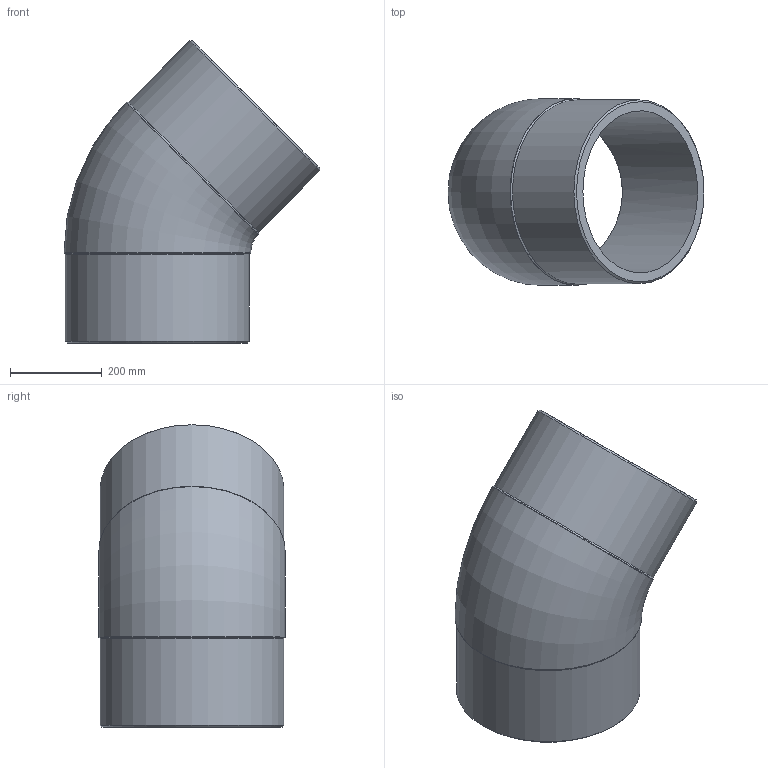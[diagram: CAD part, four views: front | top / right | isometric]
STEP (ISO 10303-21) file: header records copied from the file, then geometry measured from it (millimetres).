
FILE_DESCRIPTION(/* description */ ('Unknown'),/* implementation_level */ '2;1');
FILE_NAME(/* name */ 'G4P400B',/* time_stamp */ '2022-01-21T15:32:16+01:00',/* author */ ('Unknown'),/* organization */ ('Unknown'),/* preprocessor_version */ 'ST-DEVELOPER v18.1',/* originating_system */ 'Solid Edge',/* authorisation */ 'Unknown');
FILE_SCHEMA (('AUTOMOTIVE_DESIGN {1 0 10303 214 3 1 1}'));
Length unit declared in the file: millimetre
Products named in the file (1): G4P400B
Bounding box: 556.55 x 406 x 657.55 mm (x, y, z)
Volume: 17613515.8 mm3; surface area: 1469031.3 mm2
Topology: 1 solids, 1 shells, 14 faces, 34 edges, 22 vertices
Faces by surface type: cylinder 6, cone 4, plane 2, torus 2
Full cylindrical faces by diameter (mm): 352.6 x2, 400 x2, 406 x2
Entity records: 372 total; most frequent: CARTESIAN_POINT 72, DIRECTION 60, ORIENTED_EDGE 38, AXIS2_PLACEMENT_3D 30, EDGE_LOOP 27, FACE_BOUND 27, EDGE_CURVE 19, VERTEX_POINT 18
